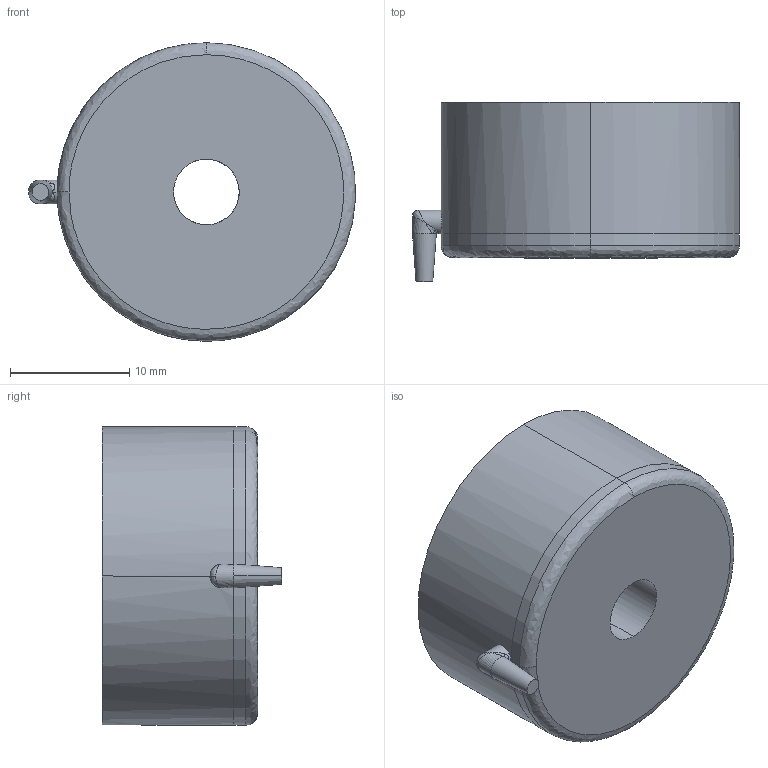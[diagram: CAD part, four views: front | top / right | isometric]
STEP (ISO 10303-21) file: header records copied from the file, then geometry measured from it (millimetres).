
FILE_DESCRIPTION (( 'STEP AP214' ), '1' );
FILE_NAME ('M110_M111.STEP', '2025-06-12T12:31:31', ( '' ), ( '' ), 'SwSTEP 2.0', 'SolidWorks 2025', '' );
FILE_SCHEMA (( 'AUTOMOTIVE_DESIGN' ));
Length unit declared in the file: millimetre
Products named in the file (2): Corpo_0-2; M110_M111
Assembly tree (1 placements, depth 2):
  M110_M111
    Corpo_0-2
Bounding box: 27.39 x 15 x 25 mm (x, y, z)
Volume: 6014.9 mm3; surface area: 2168.3 mm2
Topology: 1 solids, 1 shells, 36 faces, 86 edges, 46 vertices
Faces by surface type: cylinder 15, bspline 10, plane 7, cone 4
Entity records: 2461 total; most frequent: CARTESIAN_POINT 1758, ORIENTED_EDGE 160, DIRECTION 91, EDGE_CURVE 80, VERTEX_POINT 46, B_SPLINE_CURVE_WITH_KNOTS 44, EDGE_LOOP 38, ADVANCED_FACE 36
